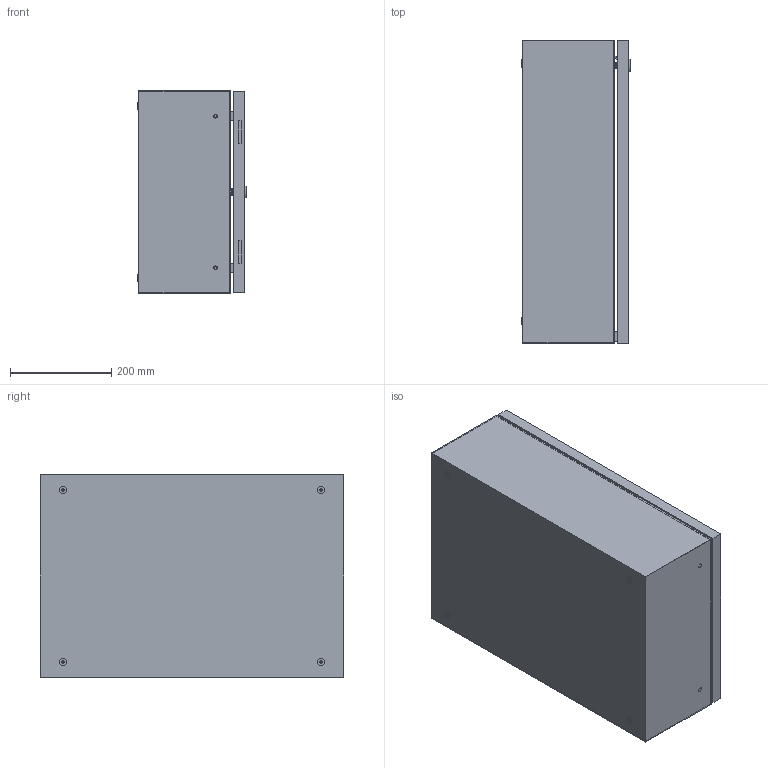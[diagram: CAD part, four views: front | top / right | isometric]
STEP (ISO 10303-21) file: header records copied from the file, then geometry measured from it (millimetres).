
FILE_DESCRIPTION(/* description */ ('Unknown'),/* implementation_level */ '2;1');
FILE_NAME(/* name */ 'CCA06004021',/* time_stamp */ '2024-07-31T08:21:19+02:00',/* author */ ('Unknown'),/* organization */ ('Unknown'),/* preprocessor_version */ 'ST-DEVELOPER v19.4',/* originating_system */ 'Solid Edge',/* authorisation */ 'Unknown');
FILE_SCHEMA (('AUTOMOTIVE_DESIGN {1 0 10303 214 3 1 1}'));
Length unit declared in the file: millimetre
Products named in the file (16): CCA06004021; C000X001.55; C0000001.49; C0000000.04; C0000000.05; AE00417.01; AE00316.01; AE00601.01; AE00891.02; C0000000.01; C000X001.56_oa_0; C000X001.57_oa_1; C0000001.50; C0000000.02; AE00989.09; AE00198.02
Assembly tree (34 placements, depth 4):
  CCA06004021
    C000X001.55
      C0000001.49
      C0000000.04  x4
      C0000000.05  x4
      AE00417.01  x4
      AE00316.01  x2
      AE00601.01  x2
      AE00891.02  x2
      C0000000.01  x2
    C000X001.56_oa_0
      C000X001.57_oa_1
        C0000001.50
      C0000000.02  x2
      AE00989.09
      AE00198.02  x2
      AE00417.01  x2
    AE00198.02  x2
Bounding box: 215.02 x 600.11 x 400 mm (x, y, z)
Volume: 1639978.9 mm3; surface area: 1879908.4 mm2
Topology: 32 solids, 32 shells, 503 faces, 1189 edges, 777 vertices
Faces by surface type: plane 332, cylinder 113, cone 34, torus 24
Full cylindrical faces by diameter (mm): 4 x1, 4.917 x5, 4.918 x2, 5.4 x2, 6 x14, 6.4 x2, 7.5 x6, 8 x4, 8.376 x8, 10 x5, 10.25 x4, 10.5 x4, 11 x2, 13.6 x1, 14 x2, 15 x4, 16 x2, 16.3 x1, 19.5 x1, 28 x1
Entity records: 11092 total; most frequent: CARTESIAN_POINT 1700, DIRECTION 1622, ORIENTED_EDGE 1492, EDGE_CURVE 746, AXIS2_PLACEMENT_3D 543, LINE 536, VECTOR 536, VERTEX_POINT 512
